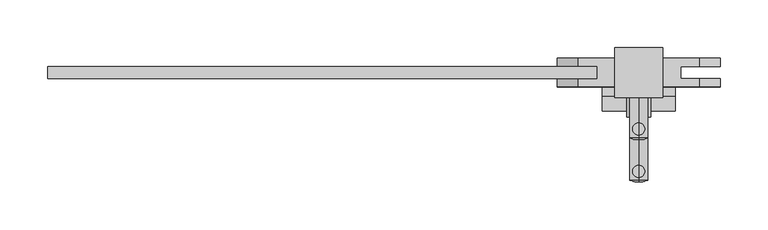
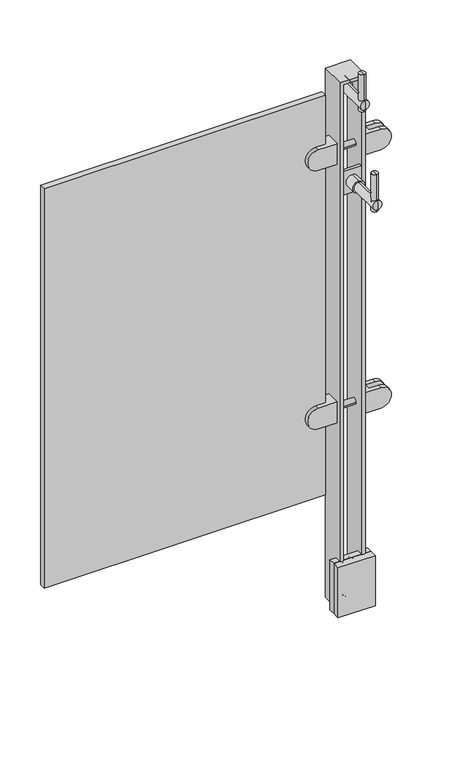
"""IFC4 building model written with IfcOpenShell, lengths in millimetres: proxy geometry, LIVERS_ICN - Glass Panel : LIVERS_ICN - Glass Panel."""

from ifc_helpers import new_model, si_unit, point, frame, origin, place, context, project, spatial, polyline, circle_curve, ellipse_curve, trimmed, outline, extrude, faceted_brep, source, transform, mapped, element, save
from ifc_brep_helpers import plane_surface, cylinder_surface, revolved_surface, advanced_brep


def building_element_proxy_6c2d3cb4(model_context):
    return source(origin(), model_context, "Body", "SolidModel", [
        advanced_brep(
        [(738.2511264, 60.3249609, 991.2180522), (738.2511264, 60.3249609, 978.5180522), (738.2511264, 60.3249609, 965.8180522), (738.2511264, 38.0999609, 991.2180522), (738.2511264, 38.0999609, 965.8180522), (738.2511264, 38.0999609, 978.5180522)],
        [
            (0, 1),
            (1, 2),
            (2, 0, circle_curve(frame((738.2511264, 60.3249609, 978.5180522), z_axis=(0.0, 1.0, 0.0), x_axis=(0.0, 0.0, -1.0)), 12.7)),
            (0, 2, circle_curve(frame((738.2511264, 60.3249609, 978.5180522), z_axis=(0.0, 1.0, 0.0), x_axis=(0.0, 0.0, -1.0)), 12.7)),
            (3, 0),
            (2, 4),
            (4, 3, circle_curve(frame((738.2511264, 38.0999609, 978.5180522), z_axis=(0.0, 1.0, 0.0), x_axis=(0.0, 0.0, -1.0)), 12.7)),
            (3, 4, circle_curve(frame((738.2511264, 38.0999609, 978.5180522), z_axis=(0.0, 1.0, 0.0), x_axis=(0.0, 0.0, -1.0)), 12.7)),
            (5, 3),
            (4, 5),
        ],
        [
            plane_surface(frame((738.2511264, 60.3249609, 978.5180522), z_axis=(0.0, 1.0, 0.0), x_axis=(0.0, 0.0, -1.0))),
            cylinder_surface(frame((738.2511264, 69.3828283, 978.5180522), z_axis=(0.0, -1.0, 0.0), x_axis=(0.0, 0.0, -1.0)), 12.7),
            plane_surface(frame((738.2511264, 38.0999609, 978.5180522), z_axis=(0.0, -1.0, 0.0), x_axis=(0.0, 0.0, -1.0))),
        ],
        [
            (0, [[1, 2, 3]]),
            (0, [[-2, -1, 4]]),
            (1, [[5, -3, 6, 7]]),
            (1, [[-6, -4, -5, 8]]),
            (2, [[9, -7, 10]]),
            (2, [[-10, -8, -9]]),
        ],
    ),
        advanced_brep(
        [(738.2511264, -25.4004131, 1043.1838845), (738.2511264, -19.0504161, 1043.1838845), (738.2511264, -12.7004191, 1043.1838845), (738.2511264, -25.4004131, 962.7878163), (738.2511264, -12.7004191, 962.7878163), (738.2511264, -19.0504161, 962.7878163)],
        [
            (0, 1),
            (1, 2),
            (2, 0, circle_curve(frame((738.2511264, -19.0504161, 1043.1838845), z_axis=(0.0, 0.0, 1.0), x_axis=(0.0, 1.0, 0.0)), 6.349997)),
            (0, 2, circle_curve(frame((738.2511264, -19.0504161, 1043.1838845), z_axis=(0.0, 0.0, 1.0), x_axis=(0.0, 1.0, 0.0)), 6.349997)),
            (3, 0),
            (2, 4),
            (4, 3, circle_curve(frame((738.2511264, -19.0504161, 962.7878163), z_axis=(0.0, 0.0, 1.0), x_axis=(0.0, 1.0, 0.0)), 6.349997)),
            (3, 4, circle_curve(frame((738.2511264, -19.0504161, 962.7878163), z_axis=(0.0, 0.0, 1.0), x_axis=(0.0, 1.0, 0.0)), 6.349997)),
            (5, 3),
            (4, 5),
        ],
        [
            plane_surface(frame((738.2511264, -19.0504161, 1043.1838845), z_axis=(0.0, 0.0, 1.0), x_axis=(0.0, 1.0, 0.0))),
            cylinder_surface(frame((738.2511264, -19.0504161, 1057.0348914), z_axis=(0.0, 0.0, -1.0), x_axis=(0.0, 1.0, 0.0)), 6.349997),
            plane_surface(frame((738.2511264, -19.0504161, 962.7878163), z_axis=(0.0, 0.0, -1.0), x_axis=(0.0, 1.0, 0.0))),
        ],
        [
            (0, [[1, 2, 3]]),
            (0, [[-2, -1, 4]]),
            (1, [[5, -3, 6, 7]]),
            (1, [[-6, -4, -5, 8]]),
            (2, [[9, -7, 10]]),
            (2, [[-10, -8, -9]]),
        ],
    ),
        advanced_brep(
        [(738.2511264, -30.1375464, 978.5180522), (738.2511264, -28.5500464, 988.0430522), (738.2511264, -28.5500464, 968.9930522), (738.2511264, 38.0999609, 988.0430522), (738.2511264, 38.0999609, 978.5180522), (738.2511264, 38.0999609, 968.9930522)],
        [
            (0, 1, circle_curve(frame((738.2511264, -0.7687964, 978.5180522), z_axis=(-1.0, 0.0, 0.0), x_axis=(0.0, 1.0, 0.0)), 29.36875)),
            (1, 2, circle_curve(frame((738.2511264, -28.5500464, 978.5180522), z_axis=(0.0, -1.0, 0.0), x_axis=(0.0, 0.0, -1.0)), 9.525)),
            (2, 0, circle_curve(frame((738.2511264, -0.7687964, 978.5180522), z_axis=(-1.0, 0.0, 0.0), x_axis=(0.0, 1.0, 0.0)), 29.36875)),
            (2, 1, circle_curve(frame((738.2511264, -28.5500464, 978.5180522), z_axis=(0.0, -1.0, 0.0), x_axis=(0.0, 0.0, -1.0)), 9.525)),
            (3, 4),
            (4, 5),
            (5, 3, circle_curve(frame((738.2511264, 38.0999609, 978.5180522), z_axis=(0.0, 1.0, 0.0), x_axis=(0.0, 0.0, -1.0)), 9.525)),
            (3, 5, circle_curve(frame((738.2511264, 38.0999609, 978.5180522), z_axis=(0.0, 1.0, 0.0), x_axis=(0.0, 0.0, -1.0)), 9.525)),
            (1, 3),
            (5, 2),
        ],
        [
            revolved_surface(trimmed(ellipse_curve(frame((738.2511264, -0.7687964, 978.5180522), z_axis=(-1.0, 0.0, 0.0), x_axis=(0.0, 1.0, 0.0)), 29.36875, 29.36875), [point((738.2511264, -28.5500464, 968.9930522))], [point((738.2511264, -30.1375464, 978.5180522))], True, "CARTESIAN"), (738.2511264, 30.3031204, 978.5180522), (0.0, -1.0, 0.0)),
            plane_surface(frame((738.2511264, 38.0999609, 978.5180522), z_axis=(0.0, 1.0, 0.0), x_axis=(0.0, 0.0, -1.0))),
            cylinder_surface(frame((738.2511264, 30.3031204, 978.5180522), z_axis=(0.0, -1.0, 0.0), x_axis=(0.0, 0.0, -1.0)), 9.525),
        ],
        [
            (0, [[1, 2, 3]]),
            (0, [[-3, 4, -1]]),
            (1, [[5, 6, 7]]),
            (1, [[-6, -5, 8]]),
            (2, [[9, -7, 10, -2]]),
            (2, [[-10, -8, -9, -4]]),
        ],
    ),
        extrude(outline(polyline([(757.3011264, 66.6749609), (757.3011264, 60.3249609), (719.2011264, 60.3249609), (719.2011264, 66.6749609), (757.3011264, 66.6749609)])), frame((0.0, 0.0, 953.1180522), z_axis=(0.0, 0.0, 1.0), x_axis=(1.0, 0.0, 0.0)), (0.0, 0.0, 1.0), 50.8),
        advanced_brep(
        [(738.2511264, 15.875, 802.0090959), (738.2511264, 15.875, 789.3090959), (738.2511264, 15.875, 776.6090959), (738.2511264, -6.35, 802.0090959), (738.2511264, -6.35, 776.6090959), (738.2511264, -6.35, 789.3090959)],
        [
            (0, 1),
            (1, 2),
            (2, 0, circle_curve(frame((738.2511264, 15.875, 789.3090959), z_axis=(0.0, 1.0, 0.0), x_axis=(0.0, 0.0, -1.0)), 12.7)),
            (0, 2, circle_curve(frame((738.2511264, 15.875, 789.3090959), z_axis=(0.0, 1.0, 0.0), x_axis=(0.0, 0.0, -1.0)), 12.7)),
            (3, 0),
            (2, 4),
            (4, 3, circle_curve(frame((738.2511264, -6.35, 789.3090959), z_axis=(0.0, 1.0, 0.0), x_axis=(0.0, 0.0, -1.0)), 12.7)),
            (3, 4, circle_curve(frame((738.2511264, -6.35, 789.3090959), z_axis=(0.0, 1.0, 0.0), x_axis=(0.0, 0.0, -1.0)), 12.7)),
            (5, 3),
            (4, 5),
        ],
        [
            plane_surface(frame((738.2511264, 15.875, 789.3090959), z_axis=(0.0, 1.0, 0.0), x_axis=(0.0, 0.0, -1.0))),
            cylinder_surface(frame((738.2511264, 24.9328674, 789.3090959), z_axis=(0.0, -1.0, 0.0), x_axis=(0.0, 0.0, -1.0)), 12.7),
            plane_surface(frame((738.2511264, -6.35, 789.3090959), z_axis=(0.0, -1.0, 0.0), x_axis=(0.0, 0.0, -1.0))),
        ],
        [
            (0, [[1, 2, 3]]),
            (0, [[-2, -1, 4]]),
            (1, [[5, -3, 6, 7]]),
            (1, [[-6, -4, -5, 8]]),
            (2, [[9, -7, 10]]),
            (2, [[-10, -8, -9]]),
        ],
    ),
        advanced_brep(
        [(738.2511264, -69.850374, 853.9749282), (738.2511264, -63.500377, 853.9749282), (738.2511264, -57.15038, 853.9749282), (738.2511264, -69.850374, 773.57886), (738.2511264, -57.15038, 773.57886), (738.2511264, -63.500377, 773.57886)],
        [
            (0, 1),
            (1, 2),
            (2, 0, circle_curve(frame((738.2511264, -63.500377, 853.9749282), z_axis=(0.0, 0.0, 1.0), x_axis=(0.0, 1.0, 0.0)), 6.349997)),
            (0, 2, circle_curve(frame((738.2511264, -63.500377, 853.9749282), z_axis=(0.0, 0.0, 1.0), x_axis=(0.0, 1.0, 0.0)), 6.349997)),
            (3, 0),
            (2, 4),
            (4, 3, circle_curve(frame((738.2511264, -63.500377, 773.57886), z_axis=(0.0, 0.0, 1.0), x_axis=(0.0, 1.0, 0.0)), 6.349997)),
            (3, 4, circle_curve(frame((738.2511264, -63.500377, 773.57886), z_axis=(0.0, 0.0, 1.0), x_axis=(0.0, 1.0, 0.0)), 6.349997)),
            (5, 3),
            (4, 5),
        ],
        [
            plane_surface(frame((738.2511264, -63.500377, 853.9749282), z_axis=(0.0, 0.0, 1.0), x_axis=(0.0, 1.0, 0.0))),
            cylinder_surface(frame((738.2511264, -63.500377, 867.8259351), z_axis=(0.0, 0.0, -1.0), x_axis=(0.0, 1.0, 0.0)), 6.349997),
            plane_surface(frame((738.2511264, -63.500377, 773.57886), z_axis=(0.0, 0.0, -1.0), x_axis=(0.0, 1.0, 0.0))),
        ],
        [
            (0, [[1, 2, 3]]),
            (0, [[-2, -1, 4]]),
            (1, [[5, -3, 6, 7]]),
            (1, [[-6, -4, -5, 8]]),
            (2, [[9, -7, 10]]),
            (2, [[-10, -8, -9]]),
        ],
    ),
        advanced_brep(
        [(738.2511264, -74.5875073, 789.3090959), (738.2511264, -73.0000073, 798.8340959), (738.2511264, -73.0000073, 779.7840959), (738.2511264, -6.35, 798.8340959), (738.2511264, -6.35, 789.3090959), (738.2511264, -6.35, 779.7840959)],
        [
            (0, 1, circle_curve(frame((738.2511264, -45.2187573, 789.3090959), z_axis=(-1.0, 0.0, 0.0), x_axis=(0.0, 1.0, 0.0)), 29.36875)),
            (1, 2, circle_curve(frame((738.2511264, -73.0000073, 789.3090959), z_axis=(0.0, -1.0, 0.0), x_axis=(0.0, 0.0, -1.0)), 9.525)),
            (2, 0, circle_curve(frame((738.2511264, -45.2187573, 789.3090959), z_axis=(-1.0, 0.0, 0.0), x_axis=(0.0, 1.0, 0.0)), 29.36875)),
            (2, 1, circle_curve(frame((738.2511264, -73.0000073, 789.3090959), z_axis=(0.0, -1.0, 0.0), x_axis=(0.0, 0.0, -1.0)), 9.525)),
            (3, 4),
            (4, 5),
            (5, 3, circle_curve(frame((738.2511264, -6.35, 789.3090959), z_axis=(0.0, 1.0, 0.0), x_axis=(0.0, 0.0, -1.0)), 9.525)),
            (3, 5, circle_curve(frame((738.2511264, -6.35, 789.3090959), z_axis=(0.0, 1.0, 0.0), x_axis=(0.0, 0.0, -1.0)), 9.525)),
            (1, 3),
            (5, 2),
        ],
        [
            revolved_surface(trimmed(ellipse_curve(frame((738.2511264, -45.2187573, 789.3090959), z_axis=(-1.0, 0.0, 0.0), x_axis=(0.0, 1.0, 0.0)), 29.36875, 29.36875), [point((738.2511264, -73.0000073, 779.7840959))], [point((738.2511264, -74.5875073, 789.3090959))], True, "CARTESIAN"), (738.2511264, -14.1468405, 789.3090959), (0.0, -1.0, 0.0)),
            plane_surface(frame((738.2511264, -6.35, 789.3090959), z_axis=(0.0, 1.0, 0.0), x_axis=(0.0, 0.0, -1.0))),
            cylinder_surface(frame((738.2511264, -14.1468405, 789.3090959), z_axis=(0.0, -1.0, 0.0), x_axis=(0.0, 0.0, -1.0)), 9.525),
        ],
        [
            (0, [[1, 2, 3]]),
            (0, [[-3, 4, -1]]),
            (1, [[5, 6, 7]]),
            (1, [[-6, -5, 8]]),
            (2, [[9, -7, 10, -2]]),
            (2, [[-10, -8, -9, -4]]),
        ],
    ),
        extrude(outline(polyline([(757.3011264, 22.225), (757.3011264, 15.875), (719.2011264, 15.875), (719.2011264, 22.225), (757.3011264, 22.225)])), frame((0.0, 0.0, 763.9090959), z_axis=(0.0, 0.0, 1.0), x_axis=(1.0, 0.0, 0.0)), (0.0, 0.0, 1.0), 50.8),
        advanced_brep(
        [(712.8511264, 55.5624457, 313.5369168), (712.8511264, 25.3999457, 313.5369168), (712.8511264, 25.3999457, 269.0869168), (712.8511264, 55.5624457, 269.0869168), (674.6500325, 55.5624457, 269.0869168), (674.6500325, 55.5624457, 313.5369168), (674.6500325, 25.3999457, 269.0869168), (674.6500325, 34.1311957, 269.0869168), (693.9792072, 34.1311957, 269.0869168), (693.9792072, 46.8311957, 269.0869168), (674.6500325, 46.8311957, 269.0869168), (674.6500325, 25.3999457, 313.5369168), (674.6500325, 46.8311957, 313.5369168), (693.9792072, 46.8311957, 313.5369168), (693.9792072, 34.1311957, 313.5369168), (674.6500325, 34.1311957, 313.5369168)],
        [
            (0, 1),
            (1, 2),
            (2, 3),
            (3, 0),
            (3, 4),
            (4, 5, circle_curve(frame((674.6500325, 55.5624457, 291.3119168), z_axis=(0.0, 1.0, 0.0), x_axis=(0.0, 0.0, -1.0)), 22.225)),
            (5, 0),
            (2, 6),
            (6, 7),
            (7, 8),
            (8, 9),
            (9, 10),
            (10, 4),
            (1, 11),
            (11, 6, circle_curve(frame((674.6500325, 25.3999457, 291.3119168), z_axis=(0.0, -1.0, 0.0), x_axis=(0.0, 0.0, -1.0)), 22.225)),
            (5, 12),
            (12, 13),
            (13, 14),
            (14, 15),
            (15, 11),
            (13, 9),
            (8, 14),
            (12, 10, circle_curve(frame((674.6500325, 46.8311957, 291.3119168), z_axis=(0.0, -1.0, 0.0), x_axis=(0.0, 0.0, -1.0)), 22.225)),
            (7, 15, circle_curve(frame((674.6500325, 34.1311957, 291.3119168), z_axis=(0.0, 1.0, 0.0), x_axis=(0.0, 0.0, -1.0)), 22.225)),
        ],
        [
            plane_surface(frame((712.8511264, 55.5624457, 269.0869168), z_axis=(1.0, 0.0, 0.0), x_axis=(0.0, 0.0, 1.0))),
            plane_surface(frame((652.3480457, 55.5624457, 313.5369168), z_axis=(0.0, 1.0, 0.0), x_axis=(1.0, 0.0, 0.0))),
            plane_surface(frame((652.3480457, 55.5624457, 269.0869168), z_axis=(0.0, 0.0, -1.0), x_axis=(1.0, 0.0, 0.0))),
            plane_surface(frame((652.3480457, 25.3999457, 269.0869168), z_axis=(0.0, -1.0, 0.0), x_axis=(1.0, 0.0, 0.0))),
            plane_surface(frame((652.3480457, 25.3999457, 313.5369168), z_axis=(0.0, 0.0, 1.0), x_axis=(1.0, 0.0, 0.0))),
            plane_surface(frame((693.9792072, 46.8311957, 269.0869168), z_axis=(-1.0, 0.0, 0.0), x_axis=(0.0, 0.0, 1.0))),
            plane_surface(frame((652.3480457, 46.8311957, 313.5369168), z_axis=(0.0, -1.0, 0.0), x_axis=(1.0, 0.0, 0.0))),
            plane_surface(frame((652.3480457, 34.1311957, 269.0869168), z_axis=(0.0, 1.0, 0.0), x_axis=(1.0, 0.0, 0.0))),
            cylinder_surface(frame((674.6500325, 55.5624457, 291.3119168), z_axis=(0.0, 1.0, 0.0), x_axis=(0.0, 0.0, -1.0)), 22.225),
        ],
        [
            (0, [[1, 2, 3, 4]]),
            (1, [[-4, 5, 6, 7]]),
            (2, [[-3, 8, 9, 10, 11, 12, 13, -5]]),
            (3, [[-2, 14, 15, -8]]),
            (4, [[-1, -7, 16, 17, 18, 19, 20, -14]]),
            (5, [[21, -11, 22, -18]]),
            (6, [[-21, -17, 23, -12]]),
            (7, [[-22, -10, 24, -19]]),
            (8, [[-6, -13, -23, -16]]),
            (8, [[-9, -15, -20, -24]]),
        ],
    ),
        advanced_brep(
        [(763.6511264, 55.5624457, 313.5369168), (763.6511264, 55.5624457, 269.0869168), (763.6511264, 25.3999457, 269.0869168), (763.6511264, 25.3999457, 313.5369168), (801.8522204, 55.5624457, 313.5369168), (801.8522204, 55.5624457, 269.0869168), (801.8522204, 46.8311957, 269.0869168), (782.5230457, 46.8311957, 269.0869168), (782.5230457, 34.1311957, 269.0869168), (801.8522204, 34.1311957, 269.0869168), (801.8522204, 25.3999457, 269.0869168), (801.8522204, 25.3999457, 313.5369168), (801.8522204, 34.1311957, 313.5369168), (782.5230457, 34.1311957, 313.5369168), (782.5230457, 46.8311957, 313.5369168), (801.8522204, 46.8311957, 313.5369168)],
        [
            (0, 1),
            (1, 2),
            (2, 3),
            (3, 0),
            (0, 4),
            (4, 5, circle_curve(frame((801.8522204, 55.5624457, 291.3119168), z_axis=(0.0, 1.0, 0.0), x_axis=(0.0, 0.0, -1.0)), 22.225)),
            (5, 1),
            (5, 6),
            (6, 7),
            (7, 8),
            (8, 9),
            (9, 10),
            (10, 2),
            (10, 11, circle_curve(frame((801.8522204, 25.3999457, 291.3119168), z_axis=(0.0, -1.0, 0.0), x_axis=(0.0, 0.0, -1.0)), 22.225)),
            (11, 3),
            (11, 12),
            (12, 13),
            (13, 14),
            (14, 15),
            (15, 4),
            (13, 8),
            (7, 14),
            (6, 15, circle_curve(frame((801.8522204, 46.8311957, 291.3119168), z_axis=(0.0, -1.0, 0.0), x_axis=(0.0, 0.0, -1.0)), 22.225)),
            (12, 9, circle_curve(frame((801.8522204, 34.1311957, 291.3119168), z_axis=(0.0, 1.0, 0.0), x_axis=(0.0, 0.0, -1.0)), 22.225)),
        ],
        [
            plane_surface(frame((763.6511264, 55.5624457, 269.0869168), z_axis=(-1.0, 0.0, 0.0), x_axis=(0.0, 0.0, 1.0))),
            plane_surface(frame((824.1542072, 55.5624457, 313.5369168), z_axis=(0.0, 1.0, 0.0), x_axis=(-1.0, 0.0, 0.0))),
            plane_surface(frame((824.1542072, 55.5624457, 269.0869168), z_axis=(0.0, 0.0, -1.0), x_axis=(-1.0, 0.0, 0.0))),
            plane_surface(frame((824.1542072, 25.3999457, 269.0869168), z_axis=(0.0, -1.0, 0.0), x_axis=(-1.0, 0.0, 0.0))),
            plane_surface(frame((824.1542072, 25.3999457, 313.5369168), z_axis=(0.0, 0.0, 1.0), x_axis=(-1.0, 0.0, 0.0))),
            plane_surface(frame((782.5230457, 46.8311957, 269.0869168), z_axis=(1.0, 0.0, 0.0), x_axis=(0.0, 0.0, 1.0))),
            plane_surface(frame((824.1542072, 46.8311957, 313.5369168), z_axis=(0.0, -1.0, 0.0), x_axis=(-1.0, 0.0, 0.0))),
            plane_surface(frame((824.1542072, 34.1311957, 269.0869168), z_axis=(0.0, 1.0, 0.0), x_axis=(-1.0, 0.0, 0.0))),
            cylinder_surface(frame((801.8522204, 55.5624457, 291.3119168), z_axis=(0.0, 1.0, 0.0), x_axis=(0.0, 0.0, -1.0)), 22.225),
        ],
        [
            (0, [[1, 2, 3, 4]]),
            (1, [[5, 6, 7, -1]]),
            (2, [[-7, 8, 9, 10, 11, 12, 13, -2]]),
            (3, [[-13, 14, 15, -3]]),
            (4, [[-15, 16, 17, 18, 19, 20, -5, -4]]),
            (5, [[-18, 21, -10, 22]]),
            (6, [[-9, 23, -19, -22]]),
            (7, [[-17, 24, -11, -21]]),
            (8, [[-20, -23, -8, -6]]),
            (8, [[-24, -16, -14, -12]]),
        ],
    ),
        advanced_brep(
        [(712.8511264, 55.5624457, 872.3369168), (712.8511264, 25.3999457, 872.3369168), (712.8511264, 25.3999457, 827.8869168), (712.8511264, 55.5624457, 827.8869168), (674.6500325, 55.5624457, 827.8869168), (674.6500325, 55.5624457, 872.3369168), (674.6500325, 25.3999457, 827.8869168), (674.6500325, 34.1311957, 827.8869168), (693.9792072, 34.1311957, 827.8869168), (693.9792072, 46.8311957, 827.8869168), (674.6500325, 46.8311957, 827.8869168), (674.6500325, 25.3999457, 872.3369168), (674.6500325, 46.8311957, 872.3369168), (693.9792072, 46.8311957, 872.3369168), (693.9792072, 34.1311957, 872.3369168), (674.6500325, 34.1311957, 872.3369168)],
        [
            (0, 1),
            (1, 2),
            (2, 3),
            (3, 0),
            (3, 4),
            (4, 5, circle_curve(frame((674.6500325, 55.5624457, 850.1119168), z_axis=(0.0, 1.0, 0.0), x_axis=(0.0, 0.0, -1.0)), 22.225)),
            (5, 0),
            (2, 6),
            (6, 7),
            (7, 8),
            (8, 9),
            (9, 10),
            (10, 4),
            (1, 11),
            (11, 6, circle_curve(frame((674.6500325, 25.3999457, 850.1119168), z_axis=(0.0, -1.0, 0.0), x_axis=(0.0, 0.0, -1.0)), 22.225)),
            (5, 12),
            (12, 13),
            (13, 14),
            (14, 15),
            (15, 11),
            (13, 9),
            (8, 14),
            (12, 10, circle_curve(frame((674.6500325, 46.8311957, 850.1119168), z_axis=(0.0, -1.0, 0.0), x_axis=(0.0, 0.0, -1.0)), 22.225)),
            (7, 15, circle_curve(frame((674.6500325, 34.1311957, 850.1119168), z_axis=(0.0, 1.0, 0.0), x_axis=(0.0, 0.0, -1.0)), 22.225)),
        ],
        [
            plane_surface(frame((712.8511264, 55.5624457, 827.8869168), z_axis=(1.0, 0.0, 0.0), x_axis=(0.0, 0.0, 1.0))),
            plane_surface(frame((652.3480457, 55.5624457, 872.3369168), z_axis=(0.0, 1.0, 0.0), x_axis=(1.0, 0.0, 0.0))),
            plane_surface(frame((652.3480457, 55.5624457, 827.8869168), z_axis=(0.0, 0.0, -1.0), x_axis=(1.0, 0.0, 0.0))),
            plane_surface(frame((652.3480457, 25.3999457, 827.8869168), z_axis=(0.0, -1.0, 0.0), x_axis=(1.0, 0.0, 0.0))),
            plane_surface(frame((652.3480457, 25.3999457, 872.3369168), z_axis=(0.0, 0.0, 1.0), x_axis=(1.0, 0.0, 0.0))),
            plane_surface(frame((693.9792072, 46.8311957, 827.8869168), z_axis=(-1.0, 0.0, 0.0), x_axis=(0.0, 0.0, 1.0))),
            plane_surface(frame((652.3480457, 46.8311957, 872.3369168), z_axis=(0.0, -1.0, 0.0), x_axis=(1.0, 0.0, 0.0))),
            plane_surface(frame((652.3480457, 34.1311957, 827.8869168), z_axis=(0.0, 1.0, 0.0), x_axis=(1.0, 0.0, 0.0))),
            cylinder_surface(frame((674.6500325, 55.5624457, 850.1119168), z_axis=(0.0, 1.0, 0.0), x_axis=(0.0, 0.0, -1.0)), 22.225),
        ],
        [
            (0, [[1, 2, 3, 4]]),
            (1, [[-4, 5, 6, 7]]),
            (2, [[-3, 8, 9, 10, 11, 12, 13, -5]]),
            (3, [[-2, 14, 15, -8]]),
            (4, [[-1, -7, 16, 17, 18, 19, 20, -14]]),
            (5, [[21, -11, 22, -18]]),
            (6, [[-21, -17, 23, -12]]),
            (7, [[-22, -10, 24, -19]]),
            (8, [[-6, -13, -23, -16]]),
            (8, [[-9, -15, -20, -24]]),
        ],
    ),
        advanced_brep(
        [(763.6511264, 55.5624457, 872.3369168), (763.6511264, 55.5624457, 827.8869168), (763.6511264, 25.3999457, 827.8869168), (763.6511264, 25.3999457, 872.3369168), (801.8522204, 55.5624457, 872.3369168), (801.8522204, 55.5624457, 827.8869168), (801.8522204, 46.8311957, 827.8869168), (782.5230457, 46.8311957, 827.8869168), (782.5230457, 34.1311957, 827.8869168), (801.8522204, 34.1311957, 827.8869168), (801.8522204, 25.3999457, 827.8869168), (801.8522204, 25.3999457, 872.3369168), (801.8522204, 34.1311957, 872.3369168), (782.5230457, 34.1311957, 872.3369168), (782.5230457, 46.8311957, 872.3369168), (801.8522204, 46.8311957, 872.3369168)],
        [
            (0, 1),
            (1, 2),
            (2, 3),
            (3, 0),
            (0, 4),
            (4, 5, circle_curve(frame((801.8522204, 55.5624457, 850.1119168), z_axis=(0.0, 1.0, 0.0), x_axis=(0.0, 0.0, -1.0)), 22.225)),
            (5, 1),
            (5, 6),
            (6, 7),
            (7, 8),
            (8, 9),
            (9, 10),
            (10, 2),
            (10, 11, circle_curve(frame((801.8522204, 25.3999457, 850.1119168), z_axis=(0.0, -1.0, 0.0), x_axis=(0.0, 0.0, -1.0)), 22.225)),
            (11, 3),
            (11, 12),
            (12, 13),
            (13, 14),
            (14, 15),
            (15, 4),
            (13, 8),
            (7, 14),
            (6, 15, circle_curve(frame((801.8522204, 46.8311957, 850.1119168), z_axis=(0.0, -1.0, 0.0), x_axis=(0.0, 0.0, -1.0)), 22.225)),
            (12, 9, circle_curve(frame((801.8522204, 34.1311957, 850.1119168), z_axis=(0.0, 1.0, 0.0), x_axis=(0.0, 0.0, -1.0)), 22.225)),
        ],
        [
            plane_surface(frame((763.6511264, 55.5624457, 827.8869168), z_axis=(-1.0, 0.0, 0.0), x_axis=(0.0, 0.0, 1.0))),
            plane_surface(frame((824.1542072, 55.5624457, 872.3369168), z_axis=(0.0, 1.0, 0.0), x_axis=(-1.0, 0.0, 0.0))),
            plane_surface(frame((824.1542072, 55.5624457, 827.8869168), z_axis=(0.0, 0.0, -1.0), x_axis=(-1.0, 0.0, 0.0))),
            plane_surface(frame((824.1542072, 25.3999457, 827.8869168), z_axis=(0.0, -1.0, 0.0), x_axis=(-1.0, 0.0, 0.0))),
            plane_surface(frame((824.1542072, 25.3999457, 872.3369168), z_axis=(0.0, 0.0, 1.0), x_axis=(-1.0, 0.0, 0.0))),
            plane_surface(frame((782.5230457, 46.8311957, 827.8869168), z_axis=(1.0, 0.0, 0.0), x_axis=(0.0, 0.0, 1.0))),
            plane_surface(frame((824.1542072, 46.8311957, 872.3369168), z_axis=(0.0, -1.0, 0.0), x_axis=(-1.0, 0.0, 0.0))),
            plane_surface(frame((824.1542072, 34.1311957, 827.8869168), z_axis=(0.0, 1.0, 0.0), x_axis=(-1.0, 0.0, 0.0))),
            cylinder_surface(frame((801.8522204, 55.5624457, 850.1119168), z_axis=(0.0, 1.0, 0.0), x_axis=(0.0, 0.0, -1.0)), 22.225),
        ],
        [
            (0, [[1, 2, 3, 4]]),
            (1, [[5, 6, 7, -1]]),
            (2, [[-7, 8, 9, 10, 11, 12, 13, -2]]),
            (3, [[-13, 14, 15, -3]]),
            (4, [[-15, 16, 17, 18, 19, 20, -5, -4]]),
            (5, [[-18, 21, -10, 22]]),
            (6, [[-9, 23, -19, -22]]),
            (7, [[-17, 24, -11, -21]]),
            (8, [[-20, -23, -8, -6]]),
            (8, [[-24, -16, -14, -12]]),
        ],
    ),
        advanced_brep(
        [(738.2511264, 28.575, -125.3541166), (738.2511264, 29.7562407, -125.3541166), (738.2511264, 29.7562407, -103.1291055), (738.2511264, 28.575, -103.1291055), (738.2511264, 28.575, -114.2416111), (738.2511264, 32.325, -119.8541166), (738.2511264, 30.8816229, -114.2416111), (738.2511264, 32.325, -108.6291055), (738.2511264, 34.8740117, -119.8541166), (738.2511264, 34.8740117, -108.6291055), (738.2511264, 33.8500285, -122.802123), (738.2511264, 33.8500285, -105.6810991), (738.2511264, 31.8562692, -124.5603989), (738.2511264, 31.8562692, -103.9228232)],
        [
            (0, 1),
            (1, 2, circle_curve(frame((738.2511264, 29.7562407, -114.2416111), z_axis=(0.0, -1.0, 0.0), x_axis=(0.0, 0.0, 1.0)), 11.1125056)),
            (2, 3),
            (3, 0, circle_curve(frame((738.2511264, 28.575, -114.2416111), z_axis=(0.0, 1.0, 0.0), x_axis=(0.0, 0.0, 1.0)), 11.1125056)),
            (2, 1, circle_curve(frame((738.2511264, 29.7562407, -114.2416111), z_axis=(0.0, -1.0, 0.0), x_axis=(0.0, 0.0, 1.0)), 11.1125056)),
            (0, 3, circle_curve(frame((738.2511264, 28.575, -114.2416111), z_axis=(0.0, 1.0, 0.0), x_axis=(0.0, 0.0, 1.0)), 11.1125056)),
            (4, 0),
            (3, 4),
            (5, 6),
            (6, 7),
            (7, 5, circle_curve(frame((738.2511264, 32.325, -114.2416111), z_axis=(0.0, 1.0, 0.0), x_axis=(0.0, 0.0, 1.0)), 5.6125056)),
            (5, 7, circle_curve(frame((738.2511264, 32.325, -114.2416111), z_axis=(0.0, 1.0, 0.0), x_axis=(0.0, 0.0, 1.0)), 5.6125056)),
            (8, 5),
            (7, 9),
            (9, 8, circle_curve(frame((738.2511264, 34.8740117, -114.2416111), z_axis=(0.0, 1.0, 0.0), x_axis=(0.0, 0.0, 1.0)), 5.6125056)),
            (8, 9, circle_curve(frame((738.2511264, 34.8740117, -114.2416111), z_axis=(0.0, 1.0, 0.0), x_axis=(0.0, 0.0, 1.0)), 5.6125056)),
            (10, 8, circle_curve(frame((738.2511264, 31.75, -120.4208407), z_axis=(1.0, 0.0, 0.0), x_axis=(0.0, -1.0, 0.0)), 3.175)),
            (9, 11, circle_curve(frame((738.2511264, 31.75, -108.0623814), z_axis=(1.0, 0.0, 0.0), x_axis=(0.0, -1.0, 0.0)), 3.175)),
            (11, 10, circle_curve(frame((738.2511264, 33.8500285, -114.2416111), z_axis=(0.0, 1.0, 0.0), x_axis=(0.0, 0.0, 1.0)), 8.560512)),
            (10, 11, circle_curve(frame((738.2511264, 33.8500285, -114.2416111), z_axis=(0.0, 1.0, 0.0), x_axis=(0.0, 0.0, 1.0)), 8.560512)),
            (12, 10),
            (11, 13),
            (13, 12, circle_curve(frame((738.2511264, 31.8562692, -114.2416111), z_axis=(0.0, 1.0, 0.0), x_axis=(0.0, 0.0, 1.0)), 10.3187879)),
            (12, 13, circle_curve(frame((738.2511264, 31.8562692, -114.2416111), z_axis=(0.0, 1.0, 0.0), x_axis=(0.0, 0.0, 1.0)), 10.3187879)),
            (1, 12, circle_curve(frame((738.2511264, 29.7562407, -122.1791166), z_axis=(1.0, 0.0, 0.0), x_axis=(0.0, -1.0, 0.0)), 3.175)),
            (13, 2, circle_curve(frame((738.2511264, 29.7562407, -106.3041055), z_axis=(1.0, 0.0, 0.0), x_axis=(0.0, -1.0, 0.0)), 3.175)),
        ],
        [
            cylinder_surface(frame((738.2511264, 28.575, -114.2416111), z_axis=(0.0, -1.0, 0.0), x_axis=(0.0, 0.0, 1.0)), 11.1125056),
            plane_surface(frame((738.2511264, 28.575, -114.2416111), z_axis=(0.0, -1.0, 0.0), x_axis=(0.0, 0.0, 1.0))),
            revolved_surface(polyline([(738.2511264, 30.8816229, -114.2416111), (738.2511264, 32.325, -108.6291055)]), (738.2511264, 28.575, -114.2416111), (0.0, -1.0, 0.0)),
            revolved_surface(polyline([(738.2511264, 32.325, -108.6291055), (738.2511264, 34.8740117, -108.6291055)]), (738.2511264, 28.575, -114.2416111), (0.0, -1.0, 0.0)),
            revolved_surface(trimmed(ellipse_curve(frame((738.2511264, 31.75, -108.0623814), z_axis=(1.0, 0.0, 0.0), x_axis=(0.0, -1.0, 0.0)), 3.175, 3.175), [point((738.2511264, 34.8740117, -108.6291055))], [point((738.2511264, 33.8500285, -105.6810991))], True, "CARTESIAN"), (738.2511264, 28.575, -114.2416111), (0.0, -1.0, 0.0)),
            revolved_surface(polyline([(738.2511264, 33.8500285, -105.6810991), (738.2511264, 31.8562692, -103.9228232)]), (738.2511264, 28.575, -114.2416111), (0.0, -1.0, 0.0)),
            revolved_surface(trimmed(ellipse_curve(frame((738.2511264, 29.7562407, -106.3041055), z_axis=(1.0, 0.0, 0.0), x_axis=(0.0, -1.0, 0.0)), 3.175, 3.175), [point((738.2511264, 31.8562692, -103.9228232))], [point((738.2511264, 29.7562407, -103.1291055))], True, "CARTESIAN"), (738.2511264, 28.575, -114.2416111), (0.0, -1.0, 0.0)),
        ],
        [
            (0, [[1, 2, 3, 4]]),
            (0, [[-3, 5, -1, 6]]),
            (1, [[7, -4, 8]]),
            (1, [[-8, -6, -7]]),
            (2, [[9, 10, 11]]),
            (2, [[-10, -9, 12]]),
            (3, [[13, -11, 14, 15]]),
            (3, [[-14, -12, -13, 16]]),
            (4, [[17, -15, 18, 19]]),
            (4, [[-18, -16, -17, 20]]),
            (5, [[21, -19, 22, 23]]),
            (5, [[-22, -20, -21, 24]]),
            (6, [[25, -23, 26, -2]]),
            (6, [[-26, -24, -25, -5]]),
        ],
    ),
        advanced_brep(
        [(738.2511264, 28.575, -55.5041166), (738.2511264, 29.7562407, -55.5041166), (738.2511264, 29.7562407, -33.2791055), (738.2511264, 28.575, -33.2791055), (738.2511264, 28.575, -44.3916111), (738.2511264, 33.8500285, -52.952123), (738.2511264, 34.8740117, -50.0041166), (738.2511264, 34.8740117, -38.7791055), (738.2511264, 33.8500285, -35.8310991), (738.2511264, 31.8562692, -54.7103989), (738.2511264, 31.8562692, -34.0728232), (738.2511264, 32.325, -50.0041166), (738.2511264, 30.8816229, -44.3916111), (738.2511264, 32.325, -38.7791055)],
        [
            (0, 1),
            (1, 2, circle_curve(frame((738.2511264, 29.7562407, -44.3916111), z_axis=(0.0, -1.0, 0.0), x_axis=(0.0, 0.0, 1.0)), 11.1125056)),
            (2, 3),
            (3, 0, circle_curve(frame((738.2511264, 28.575, -44.3916111), z_axis=(0.0, 1.0, 0.0), x_axis=(0.0, 0.0, 1.0)), 11.1125056)),
            (2, 1, circle_curve(frame((738.2511264, 29.7562407, -44.3916111), z_axis=(0.0, -1.0, 0.0), x_axis=(0.0, 0.0, 1.0)), 11.1125056)),
            (0, 3, circle_curve(frame((738.2511264, 28.575, -44.3916111), z_axis=(0.0, 1.0, 0.0), x_axis=(0.0, 0.0, 1.0)), 11.1125056)),
            (4, 0),
            (3, 4),
            (5, 6, circle_curve(frame((738.2511264, 31.75, -50.5708407), z_axis=(1.0, 0.0, 0.0), x_axis=(0.0, -1.0, 0.0)), 3.175)),
            (6, 7, circle_curve(frame((738.2511264, 34.8740117, -44.3916111), z_axis=(0.0, -1.0, 0.0), x_axis=(0.0, 0.0, 1.0)), 5.6125056)),
            (7, 8, circle_curve(frame((738.2511264, 31.75, -38.2123814), z_axis=(1.0, 0.0, 0.0), x_axis=(0.0, -1.0, 0.0)), 3.175)),
            (8, 5, circle_curve(frame((738.2511264, 33.8500285, -44.3916111), z_axis=(0.0, 1.0, 0.0), x_axis=(0.0, 0.0, 1.0)), 8.560512)),
            (7, 6, circle_curve(frame((738.2511264, 34.8740117, -44.3916111), z_axis=(0.0, -1.0, 0.0), x_axis=(0.0, 0.0, 1.0)), 5.6125056)),
            (5, 8, circle_curve(frame((738.2511264, 33.8500285, -44.3916111), z_axis=(0.0, 1.0, 0.0), x_axis=(0.0, 0.0, 1.0)), 8.560512)),
            (9, 5),
            (8, 10),
            (10, 9, circle_curve(frame((738.2511264, 31.8562692, -44.3916111), z_axis=(0.0, 1.0, 0.0), x_axis=(0.0, 0.0, 1.0)), 10.3187879)),
            (9, 10, circle_curve(frame((738.2511264, 31.8562692, -44.3916111), z_axis=(0.0, 1.0, 0.0), x_axis=(0.0, 0.0, 1.0)), 10.3187879)),
            (1, 9, circle_curve(frame((738.2511264, 29.7562407, -52.3291166), z_axis=(1.0, 0.0, 0.0), x_axis=(0.0, -1.0, 0.0)), 3.175)),
            (10, 2, circle_curve(frame((738.2511264, 29.7562407, -36.4541055), z_axis=(1.0, 0.0, 0.0), x_axis=(0.0, -1.0, 0.0)), 3.175)),
            (11, 12),
            (12, 13),
            (13, 11, circle_curve(frame((738.2511264, 32.325, -44.3916111), z_axis=(0.0, 1.0, 0.0), x_axis=(0.0, 0.0, 1.0)), 5.6125056)),
            (11, 13, circle_curve(frame((738.2511264, 32.325, -44.3916111), z_axis=(0.0, 1.0, 0.0), x_axis=(0.0, 0.0, 1.0)), 5.6125056)),
            (6, 11),
            (13, 7),
        ],
        [
            cylinder_surface(frame((738.2511264, 28.575, -44.3916111), z_axis=(0.0, -1.0, 0.0), x_axis=(0.0, 0.0, 1.0)), 11.1125056),
            plane_surface(frame((738.2511264, 28.575, -44.3916111), z_axis=(0.0, -1.0, 0.0), x_axis=(0.0, 0.0, 1.0))),
            revolved_surface(trimmed(ellipse_curve(frame((738.2511264, 31.75, -38.2123814), z_axis=(1.0, 0.0, 0.0), x_axis=(0.0, -1.0, 0.0)), 3.175, 3.175), [point((738.2511264, 34.8740117, -38.7791055))], [point((738.2511264, 33.8500285, -35.8310991))], True, "CARTESIAN"), (738.2511264, 28.575, -44.3916111), (0.0, -1.0, 0.0)),
            revolved_surface(polyline([(738.2511264, 33.8500285, -35.8310991), (738.2511264, 31.8562692, -34.0728232)]), (738.2511264, 28.575, -44.3916111), (0.0, -1.0, 0.0)),
            revolved_surface(trimmed(ellipse_curve(frame((738.2511264, 29.7562407, -36.4541055), z_axis=(1.0, 0.0, 0.0), x_axis=(0.0, -1.0, 0.0)), 3.175, 3.175), [point((738.2511264, 31.8562692, -34.0728232))], [point((738.2511264, 29.7562407, -33.2791055))], True, "CARTESIAN"), (738.2511264, 28.575, -44.3916111), (0.0, -1.0, 0.0)),
            revolved_surface(polyline([(738.2511264, 30.8816229, -44.3916111), (738.2511264, 32.325, -38.7791055)]), (738.2511264, 28.575, -44.3916111), (0.0, -1.0, 0.0)),
            revolved_surface(polyline([(738.2511264, 32.325, -38.7791055), (738.2511264, 34.8740117, -38.7791055)]), (738.2511264, 28.575, -44.3916111), (0.0, -1.0, 0.0)),
        ],
        [
            (0, [[1, 2, 3, 4]]),
            (0, [[-3, 5, -1, 6]]),
            (1, [[7, -4, 8]]),
            (1, [[-8, -6, -7]]),
            (2, [[9, 10, 11, 12]]),
            (2, [[-11, 13, -9, 14]]),
            (3, [[15, -12, 16, 17]]),
            (3, [[-16, -14, -15, 18]]),
            (4, [[19, -17, 20, -2]]),
            (4, [[-20, -18, -19, -5]]),
            (5, [[21, 22, 23]]),
            (5, [[-22, -21, 24]]),
            (6, [[25, -23, 26, -10]]),
            (6, [[-26, -24, -25, -13]]),
        ],
    ),
        faceted_brep([(763.6511264, 14.2874305, 1010.2680522), (763.6511264, 14.2874305, -133.2916111), (763.6511264, 15.875, -133.2916111), (763.6511264, 15.875, -25.3416111), (763.6511264, 28.575, -25.3416111), (763.6511264, 28.575, -133.2916111), (763.6511264, 66.6749609, -133.2916111), (763.6511264, 66.6749609, 1010.2680522), (757.3011264, 66.6749609, -133.2916111), (757.3011264, 28.575, -133.2916111), (757.3011264, 28.575, -25.3416111), (757.3011264, 15.875, -25.3416111), (757.3011264, 15.875, -133.2916111), (757.3011264, 14.2874305, -133.2916111), (757.3011264, 14.2874305, 1003.9180522), (757.3011264, 66.6749609, 1003.9180522), (700.1511264, 28.575, -133.2916111), (712.8511264, 28.575, -133.2916111), (712.8511264, 66.6749609, -133.2916111), (719.2011264, 66.6749609, -133.2916111), (719.2011264, 28.575, -133.2916111), (776.3511264, 28.575, -133.2916111), (776.3511264, 15.875, -133.2916111), (719.2011264, 15.875, -133.2916111), (719.2011264, 14.2874305, -133.2916111), (712.8511264, 14.2874305, -133.2916111), (712.8511264, 15.875, -133.2916111), (700.1511264, 15.875, -133.2916111), (712.8511264, 14.2874305, 1010.2680522), (719.2011264, 14.2874305, 1003.9180522), (712.8511264, 66.6749609, 1010.2680522), (719.2011264, 66.6749609, 1003.9180522), (719.2011264, 15.875, -25.3416111), (719.2011264, 28.575, -25.3416111), (712.8511264, 28.575, -25.3416111), (712.8511264, 15.875, -25.3416111), (776.3511264, 28.575, -25.3416111), (700.1511264, 28.575, -25.3416111), (700.1511264, 15.875, -25.3416111), (776.3511264, 15.875, -25.3416111)], [[[0, 1, 2, 3, 4, 5, 6, 7]], [[8, 9, 10, 11, 12, 13, 14, 15]], [[16, 17, 18, 19, 20, 9, 8, 6, 5, 21, 22, 2, 1, 13, 12, 23, 24, 25, 26, 27]], [[1, 0, 28, 25, 24, 29, 14, 13]], [[7, 30, 28, 0]], [[8, 15, 31, 19, 18, 30, 7, 6]], [[24, 23, 32, 33, 20, 19, 31, 29]], [[14, 29, 31, 15]], [[30, 18, 17, 34, 35, 26, 25, 28]], [[20, 33, 10, 9]], [[21, 5, 4, 36]], [[37, 34, 17, 16]], [[12, 11, 32, 23]], [[27, 26, 35, 38]], [[39, 3, 2, 22]], [[36, 39, 22, 21]], [[33, 32, 11, 10]], [[36, 4, 3, 39]], [[38, 35, 34, 37]], [[16, 27, 38, 37]]]),
        extrude(outline(polyline([(776.3511264, 15.875), (776.3511264, 0.0), (700.1511264, 0.0), (700.1511264, 15.875), (776.3511264, 15.875)])), frame((0.0, 0.0, -133.2916111), z_axis=(0.0, 0.0, 1.0), x_axis=(1.0, 0.0, 0.0)), (0.0, 0.0, 1.0), 107.95),
        advanced_brep(
        [(719.2011264, 41.2749421, 291.3119224), (719.2011264, 47.5989918, 291.3119224), (719.2011264, 34.9508924, 291.3119224), (757.3151127, 47.5989918, 291.3119224), (757.3151127, 41.2749421, 291.3119224), (757.3151127, 34.9508924, 291.3119224)],
        [
            (0, 1),
            (1, 2, circle_curve(frame((719.2011264, 41.2749421, 291.3119224), z_axis=(-1.0, 0.0, 0.0), x_axis=(0.0, -1.0, 0.0)), 6.3240497)),
            (2, 0),
            (2, 1, circle_curve(frame((719.2011264, 41.2749421, 291.3119224), z_axis=(-1.0, 0.0, 0.0), x_axis=(0.0, -1.0, 0.0)), 6.3240497)),
            (3, 4),
            (4, 5),
            (5, 3, circle_curve(frame((757.3151127, 41.2749421, 291.3119224), z_axis=(1.0, 0.0, 0.0), x_axis=(0.0, -1.0, 0.0)), 6.3240497)),
            (3, 5, circle_curve(frame((757.3151127, 41.2749421, 291.3119224), z_axis=(1.0, 0.0, 0.0), x_axis=(0.0, -1.0, 0.0)), 6.3240497)),
            (1, 3),
            (5, 2),
        ],
        [
            plane_surface(frame((719.2011264, 41.2749421, 291.3119224), z_axis=(-1.0, 0.0, 0.0), x_axis=(0.0, -1.0, 0.0))),
            plane_surface(frame((757.3151127, 41.2749421, 291.3119224), z_axis=(1.0, 0.0, 0.0), x_axis=(0.0, -1.0, 0.0))),
            cylinder_surface(frame((719.2011264, 41.2749421, 291.3119224), z_axis=(-1.0, 0.0, 0.0), x_axis=(0.0, -1.0, 0.0)), 6.3240497),
        ],
        [
            (0, [[1, 2, 3]]),
            (0, [[-3, 4, -1]]),
            (1, [[5, 6, 7]]),
            (1, [[-6, -5, 8]]),
            (2, [[9, -7, 10, -2]]),
            (2, [[-10, -8, -9, -4]]),
        ],
    ),
        advanced_brep(
        [(719.2011264, 41.2749421, 850.1119224), (719.2011264, 47.5989918, 850.1119224), (719.2011264, 34.9508924, 850.1119224), (757.3151127, 47.5989918, 850.1119224), (757.3151127, 41.2749421, 850.1119224), (757.3151127, 34.9508924, 850.1119224)],
        [
            (0, 1),
            (1, 2, circle_curve(frame((719.2011264, 41.2749421, 850.1119224), z_axis=(-1.0, 0.0, 0.0), x_axis=(0.0, -1.0, 0.0)), 6.3240497)),
            (2, 0),
            (2, 1, circle_curve(frame((719.2011264, 41.2749421, 850.1119224), z_axis=(-1.0, 0.0, 0.0), x_axis=(0.0, -1.0, 0.0)), 6.3240497)),
            (3, 4),
            (4, 5),
            (5, 3, circle_curve(frame((757.3151127, 41.2749421, 850.1119224), z_axis=(1.0, 0.0, 0.0), x_axis=(0.0, -1.0, 0.0)), 6.3240497)),
            (3, 5, circle_curve(frame((757.3151127, 41.2749421, 850.1119224), z_axis=(1.0, 0.0, 0.0), x_axis=(0.0, -1.0, 0.0)), 6.3240497)),
            (1, 3),
            (5, 2),
        ],
        [
            plane_surface(frame((719.2011264, 41.2749421, 850.1119224), z_axis=(-1.0, 0.0, 0.0), x_axis=(0.0, -1.0, 0.0))),
            plane_surface(frame((757.3151127, 41.2749421, 850.1119224), z_axis=(1.0, 0.0, 0.0), x_axis=(0.0, -1.0, 0.0))),
            cylinder_surface(frame((719.2011264, 41.2749421, 850.1119224), z_axis=(-1.0, 0.0, 0.0), x_axis=(0.0, -1.0, 0.0)), 6.3240497),
        ],
        [
            (0, [[1, 2, 3]]),
            (0, [[-3, 4, -1]]),
            (1, [[5, 6, 7]]),
            (1, [[-6, -5, 8]]),
            (2, [[9, -7, 10, -2]]),
            (2, [[-10, -8, -9, -4]]),
        ],
    ),
        extrude(outline(polyline([(693.9792072, 34.1309994), (117.8798642, 34.1309994), (117.8798642, 46.8311957), (693.9792072, 46.8311957), (693.9792072, 34.1309994)])), frame((0.0, 0.0, 114.3), z_axis=(0.0, 0.0, 1.0), x_axis=(1.0, 0.0, 0.0)), (0.0, 0.0, 1.0), 863.6),
    ])


if __name__ == "__main__":
    model = new_model("IFC4")
    model_context = context("Model", 3, world=origin())
    ifc_project = project(units=[si_unit("LENGTHUNIT", "METRE", prefix="MILLI")], contexts=[model_context])
    site = spatial("IfcSite", under=ifc_project)
    building = spatial("IfcBuilding", under=site)
    placement = place(None, origin())
    building_element_proxy_shape = building_element_proxy_6c2d3cb4(model_context)
    element("IfcBuildingElementProxy", 1, Name="LIVERS_ICN - Glass Panel : LIVERS_ICN - Glass Panel", ObjectType="LIVERS_ICN - Glass Panel : LIVERS_ICN - Glass Panel", at=placement, inside=building, context=model_context, shape_type="MappedRepresentation", body=[
        mapped(building_element_proxy_shape, transform((0.0, 0.0, 0.0), x_axis=(1.0, 0.0, 0.0), y_axis=(0.0, 1.0, 0.0), z_axis=(0.0, 0.0, 1.0))),
    ])
    save(model, "model.ifc")
